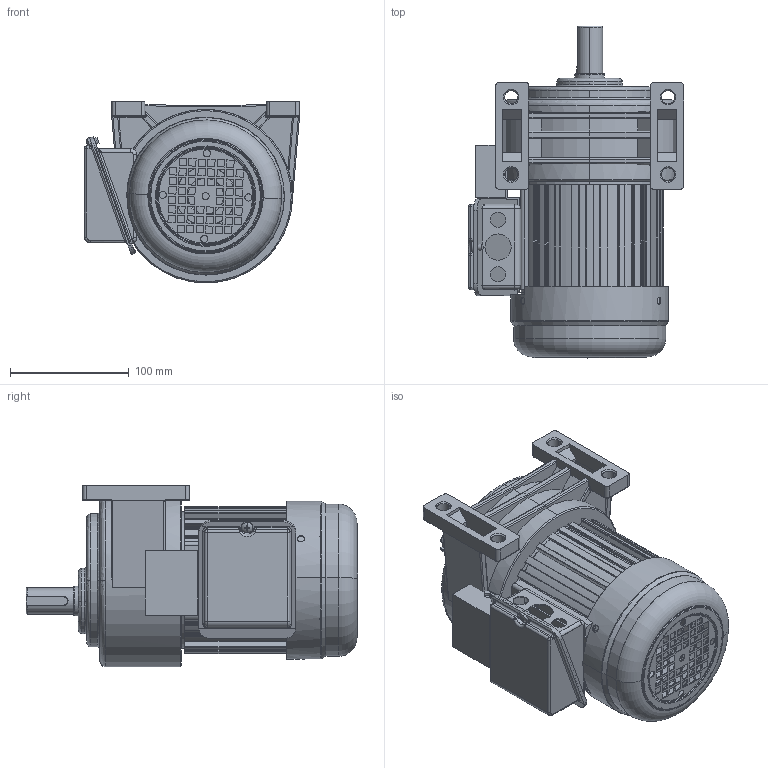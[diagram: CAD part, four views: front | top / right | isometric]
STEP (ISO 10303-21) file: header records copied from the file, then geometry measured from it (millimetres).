
FILE_DESCRIPTION (( 'STEP AP203' ), '1' );
FILE_NAME ('等眈100W饜2#拏宒.STEP', '2020-04-23T02:36:44', ( 'china' ), ( 'china' ), 'SwSTEP 2.0', 'SolidWorks 2019', '' );
FILE_SCHEMA (( 'CONFIG_CONTROL_DESIGN' ));
Length unit declared in the file: millimetre
Products named in the file (5): 淕霜ん; 等眈100W饜2#拏宒; 等眈100W2#拏宒; 100W价陬瑞欶; 100W棠憤迖殤
Assembly tree (4 placements, depth 2):
  等眈100W饜2#拏宒
    等眈100W2#拏宒
    100W棠憤迖殤
    100W价陬瑞欶
    淕霜ん
Bounding box: 180.9 x 279.12 x 153 mm (x, y, z)
Volume: 1976519.3 mm3; surface area: 368279.8 mm2
Topology: 8 solids, 8 shells, 1104 faces, 3007 edges, 1931 vertices
Faces by surface type: plane 465, cylinder 450, bspline 98, torus 56, cone 29, sphere 6
Entity records: 42337 total; most frequent: CARTESIAN_POINT 13709, ORIENTED_EDGE 5978, DIRECTION 5802, EDGE_CURVE 2989, AXIS2_PLACEMENT_3D 2061, VERTEX_POINT 1931, LINE 1680, VECTOR 1680
